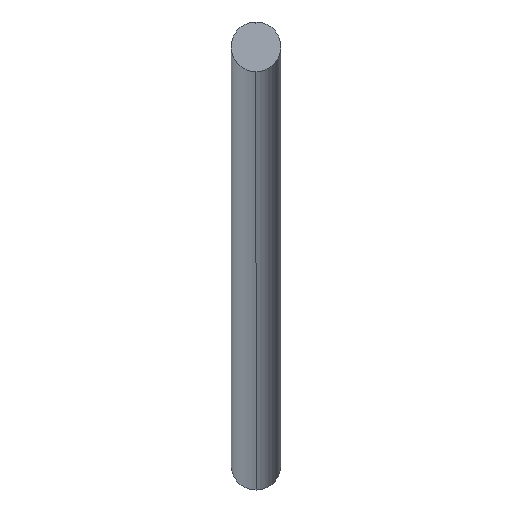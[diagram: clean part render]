
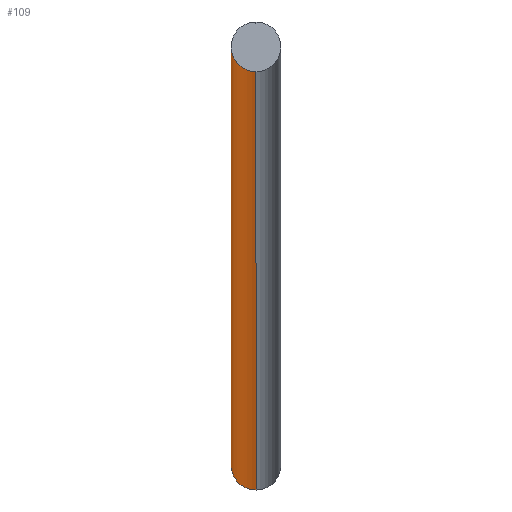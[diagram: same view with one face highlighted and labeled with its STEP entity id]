
A CAD part, left-side view. The second image highlights one B-rep face of the part: STEP entity #109.
In plain terms, the highlighted cylindrical face has radius 3 mm (diameter 6 mm), a partial arc.
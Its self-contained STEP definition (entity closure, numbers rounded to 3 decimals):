
#1=CARTESIAN_POINT('',(-20.53,0.,189.308));
#2=DIRECTION('',(0.997,0.,-0.077));
#3=DIRECTION('',(-0.077,0.,-0.997));
#4=AXIS2_PLACEMENT_3D('',#1,#2,#3);
#11=DIRECTION('',(0.997,0.,-0.077));
#12=VECTOR('',#11,651.037);
#13=CARTESIAN_POINT('',(-20.762,0.,186.317));
#14=LINE('',#13,#12);
#15=DIRECTION('',(0.997,0.,-0.077));
#16=VECTOR('',#15,651.037);
#17=CARTESIAN_POINT('',(-20.298,0.,192.299));
#18=LINE('',#17,#16);
#19=CARTESIAN_POINT('',(628.559,0.,138.977));
#20=DIRECTION('',(0.997,0.,-0.077));
#21=DIRECTION('',(-0.077,0.,-0.997));
#22=AXIS2_PLACEMENT_3D('',#19,#20,#21);
#65=CARTESIAN_POINT('',(-20.762,0.,186.317));
#66=CARTESIAN_POINT('',(-20.298,0.,192.299));
#67=VERTEX_POINT('',#65);
#68=VERTEX_POINT('',#66);
#69=CARTESIAN_POINT('',(628.327,0.,135.986));
#70=CARTESIAN_POINT('',(628.791,0.,141.968));
#71=VERTEX_POINT('',#69);
#72=VERTEX_POINT('',#70);
#95=CARTESIAN_POINT('',(-20.53,0.,189.308));
#96=DIRECTION('',(0.997,0.,-0.077));
#97=DIRECTION('',(-0.077,0.,-0.997));
#98=AXIS2_PLACEMENT_3D('',#95,#96,#97);
#99=CYLINDRICAL_SURFACE('',#98,3.);
#100=ORIENTED_EDGE('',*,*,#88,.F.);
#102=ORIENTED_EDGE('',*,*,#101,.T.);
#104=ORIENTED_EDGE('',*,*,#103,.T.);
#106=ORIENTED_EDGE('',*,*,#105,.F.);
#107=EDGE_LOOP('',(#100,#102,#104,#106));
#108=FACE_OUTER_BOUND('',#107,.F.);
#109=ADVANCED_FACE('',(#108),#99,.T.);
#5=CIRCLE('',#4,3.);
#23=CIRCLE('',#22,3.);
#88=EDGE_CURVE('',#67,#68,#5,.T.);
#101=EDGE_CURVE('',#67,#71,#14,.T.);
#103=EDGE_CURVE('',#71,#72,#23,.T.);
#105=EDGE_CURVE('',#68,#72,#18,.T.);
